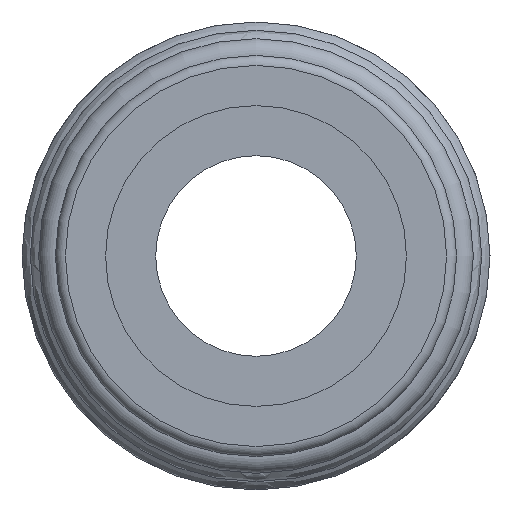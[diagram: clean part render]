
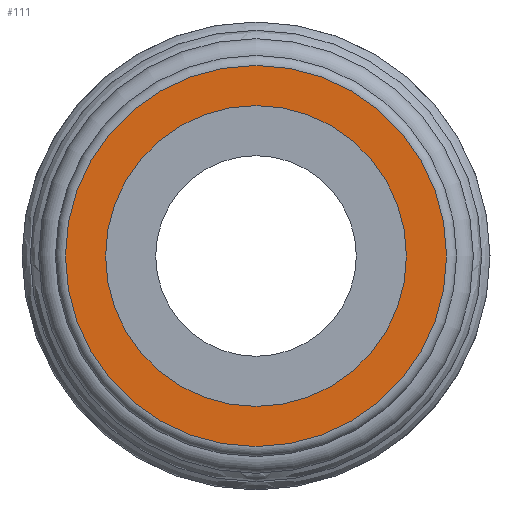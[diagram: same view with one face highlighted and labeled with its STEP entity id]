
A CAD part, left-side view. The second image highlights one B-rep face of the part: STEP entity #111.
In plain terms, the highlighted planar face has unit normal (-1, 0, 0).
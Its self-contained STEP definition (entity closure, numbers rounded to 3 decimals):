
#49=CARTESIAN_POINT('',(-51.2,0.,5.7));
#50=VERTEX_POINT('',#49);
#51=CARTESIAN_POINT('',(-51.2,0.,0.));
#52=DIRECTION('',(1.0,0.0,0.0));
#53=DIRECTION('',(0.0,0.0,-1.0));
#54=AXIS2_PLACEMENT_3D('',#51,#52,#53);
#55=CIRCLE('',#54,5.7);
#56=EDGE_CURVE('',#50,#50,#55,.T.);
#92=CARTESIAN_POINT('',(-51.2,0.,0.));
#93=DIRECTION('',(1.0,0.0,0.0));
#94=DIRECTION('',(0.0,0.0,-1.0));
#95=AXIS2_PLACEMENT_3D('',#92,#93,#94);
#96=PLANE('',#95);
#97=ORIENTED_EDGE('',*,*,#56,.F.);
#98=EDGE_LOOP('',(#97));
#99=FACE_OUTER_BOUND('',#98,.T.);
#100=CARTESIAN_POINT('',(-51.2,-4.5,0.));
#101=VERTEX_POINT('',#100);
#102=CARTESIAN_POINT('',(-51.2,0.,0.));
#103=DIRECTION('',(1.0,0.0,0.0));
#104=DIRECTION('',(0.0,-1.0,0.0));
#105=AXIS2_PLACEMENT_3D('',#102,#103,#104);
#106=CIRCLE('',#105,4.5);
#107=EDGE_CURVE('',#101,#101,#106,.T.);
#108=ORIENTED_EDGE('',*,*,#107,.T.);
#109=EDGE_LOOP('',(#108));
#110=FACE_BOUND('',#109,.T.);
#111=ADVANCED_FACE('',(#99,#110),#96,.F.);
